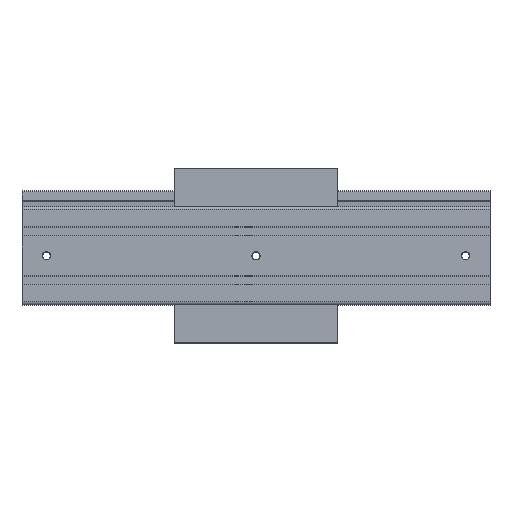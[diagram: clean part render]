
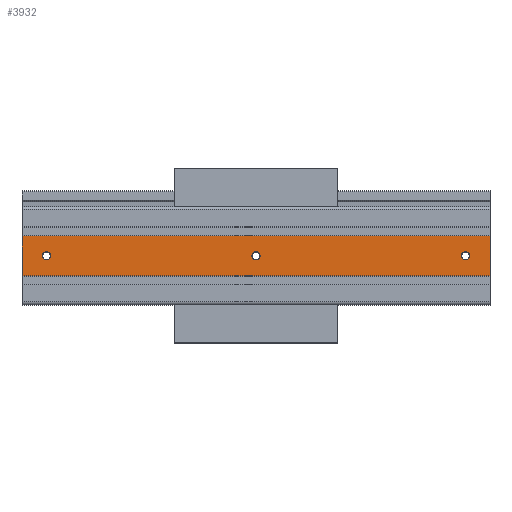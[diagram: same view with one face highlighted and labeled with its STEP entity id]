
A CAD part, top view. The second image highlights one B-rep face of the part: STEP entity #3932.
In plain terms, the highlighted planar face has unit normal (0, 0, 1).
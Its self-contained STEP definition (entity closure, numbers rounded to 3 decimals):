
#1403 = VECTOR ( 'NONE', #24248, 1000. ) ;
#2094 = CIRCLE ( 'NONE', #2454, 3.75 ) ;
#2207 = EDGE_CURVE ( 'NONE', #25421, #3337, #20485, .T. ) ;
#2454 = AXIS2_PLACEMENT_3D ( 'NONE', #5698, #20197, #7775 ) ;
#2581 = ORIENTED_EDGE ( 'NONE', *, *, #3801, .F. ) ;
#3258 = VECTOR ( 'NONE', #22984, 1000. ) ;
#3337 = VERTEX_POINT ( 'NONE', #26014 ) ;
#3801 = EDGE_CURVE ( 'NONE', #7267, #10944, #5126, .T. ) ;
#3854 = CIRCLE ( 'NONE', #19816, 3.75 ) ;
#3932 = ADVANCED_FACE ( 'NONE', ( #7839, #23675, #12740, #7162 ), #12896, .F. ) ;
#4095 = VECTOR ( 'NONE', #12004, 1000. ) ;
#4426 = CARTESIAN_POINT ( 'NONE',  ( 0., -45., 142.5 ) ) ;
#4896 = EDGE_CURVE ( 'NONE', #25263, #26521, #19122, .T. ) ;
#5126 = CIRCLE ( 'NONE', #5936, 3.75 ) ;
#5313 = CARTESIAN_POINT ( 'NONE',  ( -215., -63.35, 142.5 ) ) ;
#5457 = EDGE_LOOP ( 'NONE', ( #18954, #23550, #7469, #15591 ) ) ;
#5569 = LINE ( 'NONE', #17535, #26285 ) ;
#5698 = CARTESIAN_POINT ( 'NONE',  ( -192.5, -45., 142.5 ) ) ;
#5936 = AXIS2_PLACEMENT_3D ( 'NONE', #6346, #20850, #8421 ) ;
#6186 = CIRCLE ( 'NONE', #15103, 3.75 ) ;
#6346 = CARTESIAN_POINT ( 'NONE',  ( 0., -45., 142.5 ) ) ;
#6504 = DIRECTION ( 'NONE',  ( 1., 0., 0. ) ) ;
#6565 = EDGE_LOOP ( 'NONE', ( #23425, #15056 ) ) ;
#6570 = CARTESIAN_POINT ( 'NONE',  ( 192.5, -45., 142.5 ) ) ;
#7161 = EDGE_CURVE ( 'NONE', #17495, #15285, #19672, .T. ) ;
#7162 = FACE_OUTER_BOUND ( 'NONE', #5457, .T. ) ;
#7267 = VERTEX_POINT ( 'NONE', #13124 ) ;
#7276 = EDGE_LOOP ( 'NONE', ( #12515, #26737 ) ) ;
#7469 = ORIENTED_EDGE ( 'NONE', *, *, #15215, .F. ) ;
#7775 = DIRECTION ( 'NONE',  ( 1., 0., 0. ) ) ;
#7839 = FACE_BOUND ( 'NONE', #7276, .T. ) ;
#7863 = CARTESIAN_POINT ( 'NONE',  ( -192.5, -45., 142.5 ) ) ;
#7872 = CARTESIAN_POINT ( 'NONE',  ( 3.75, -45., 142.5 ) ) ;
#8174 = CARTESIAN_POINT ( 'NONE',  ( 215., -26.65, 142.5 ) ) ;
#8421 = DIRECTION ( 'NONE',  ( 1., 0., 0. ) ) ;
#8502 = CARTESIAN_POINT ( 'NONE',  ( 215., -26.65, 142.5 ) ) ;
#8660 = DIRECTION ( 'NONE',  ( 1., 0., 0. ) ) ;
#8774 = DIRECTION ( 'NONE',  ( 0., 1., 0. ) ) ;
#9604 = LINE ( 'NONE', #11917, #4095 ) ;
#9962 = DIRECTION ( 'NONE',  ( 1., 0., 0. ) ) ;
#9975 = DIRECTION ( 'NONE',  ( 0., 0., 1. ) ) ;
#10145 = EDGE_CURVE ( 'NONE', #10944, #7267, #6186, .T. ) ;
#10252 = VERTEX_POINT ( 'NONE', #21281 ) ;
#10944 = VERTEX_POINT ( 'NONE', #7872 ) ;
#11917 = CARTESIAN_POINT ( 'NONE',  ( -215., -26.65, 142.5 ) ) ;
#12004 = DIRECTION ( 'NONE',  ( 0., -1., 0. ) ) ;
#12021 = EDGE_CURVE ( 'NONE', #15285, #17495, #3854, .T. ) ;
#12515 = ORIENTED_EDGE ( 'NONE', *, *, #4896, .F. ) ;
#12740 = FACE_BOUND ( 'NONE', #6565, .T. ) ;
#12896 = PLANE ( 'NONE',  #19813 ) ;
#13124 = CARTESIAN_POINT ( 'NONE',  ( -3.75, -45., 142.5 ) ) ;
#13433 = EDGE_CURVE ( 'NONE', #3337, #14441, #9604, .T. ) ;
#13497 = DIRECTION ( 'NONE',  ( -1., 0., 0. ) ) ;
#14441 = VERTEX_POINT ( 'NONE', #5313 ) ;
#15056 = ORIENTED_EDGE ( 'NONE', *, *, #7161, .F. ) ;
#15103 = AXIS2_PLACEMENT_3D ( 'NONE', #4426, #18917, #6504 ) ;
#15215 = EDGE_CURVE ( 'NONE', #25421, #10252, #17903, .T. ) ;
#15285 = VERTEX_POINT ( 'NONE', #26517 ) ;
#15591 = ORIENTED_EDGE ( 'NONE', *, *, #2207, .T. ) ;
#16385 = AXIS2_PLACEMENT_3D ( 'NONE', #7863, #22358, #9962 ) ;
#17495 = VERTEX_POINT ( 'NONE', #20559 ) ;
#17535 = CARTESIAN_POINT ( 'NONE',  ( 215., -63.35, 142.5 ) ) ;
#17903 = LINE ( 'NONE', #26237, #1403 ) ;
#17957 = CARTESIAN_POINT ( 'NONE',  ( -188.75, -45., 142.5 ) ) ;
#18917 = DIRECTION ( 'NONE',  ( 0., 0., 1. ) ) ;
#18954 = ORIENTED_EDGE ( 'NONE', *, *, #13433, .T. ) ;
#19110 = CARTESIAN_POINT ( 'NONE',  ( 215., -26.65, 142.5 ) ) ;
#19122 = CIRCLE ( 'NONE', #16385, 3.75 ) ;
#19376 = ORIENTED_EDGE ( 'NONE', *, *, #10145, .F. ) ;
#19672 = CIRCLE ( 'NONE', #21950, 3.75 ) ;
#19813 = AXIS2_PLACEMENT_3D ( 'NONE', #19110, #21202, #8774 ) ;
#19816 = AXIS2_PLACEMENT_3D ( 'NONE', #22372, #9975, #24443 ) ;
#20197 = DIRECTION ( 'NONE',  ( 0., 0., 1. ) ) ;
#20485 = LINE ( 'NONE', #8502, #3258 ) ;
#20559 = CARTESIAN_POINT ( 'NONE',  ( 188.75, -45., 142.5 ) ) ;
#20647 = CARTESIAN_POINT ( 'NONE',  ( -196.25, -45., 142.5 ) ) ;
#20850 = DIRECTION ( 'NONE',  ( 0., 0., 1. ) ) ;
#21091 = DIRECTION ( 'NONE',  ( 0., 0., 1. ) ) ;
#21202 = DIRECTION ( 'NONE',  ( 0., 0., -1. ) ) ;
#21281 = CARTESIAN_POINT ( 'NONE',  ( 215., -63.35, 142.5 ) ) ;
#21435 = EDGE_CURVE ( 'NONE', #10252, #14441, #5569, .T. ) ;
#21950 = AXIS2_PLACEMENT_3D ( 'NONE', #6570, #21091, #8660 ) ;
#22228 = EDGE_LOOP ( 'NONE', ( #19376, #2581 ) ) ;
#22358 = DIRECTION ( 'NONE',  ( 0., 0., 1. ) ) ;
#22372 = CARTESIAN_POINT ( 'NONE',  ( 192.5, -45., 142.5 ) ) ;
#22984 = DIRECTION ( 'NONE',  ( -1., 0., 0. ) ) ;
#23296 = EDGE_CURVE ( 'NONE', #26521, #25263, #2094, .T. ) ;
#23425 = ORIENTED_EDGE ( 'NONE', *, *, #12021, .F. ) ;
#23550 = ORIENTED_EDGE ( 'NONE', *, *, #21435, .F. ) ;
#23675 = FACE_BOUND ( 'NONE', #22228, .T. ) ;
#24248 = DIRECTION ( 'NONE',  ( 0., -1., 0. ) ) ;
#24443 = DIRECTION ( 'NONE',  ( 1., 0., 0. ) ) ;
#25263 = VERTEX_POINT ( 'NONE', #17957 ) ;
#25421 = VERTEX_POINT ( 'NONE', #8174 ) ;
#26014 = CARTESIAN_POINT ( 'NONE',  ( -215., -26.65, 142.5 ) ) ;
#26237 = CARTESIAN_POINT ( 'NONE',  ( 215., -26.65, 142.5 ) ) ;
#26285 = VECTOR ( 'NONE', #13497, 1000. ) ;
#26517 = CARTESIAN_POINT ( 'NONE',  ( 196.25, -45., 142.5 ) ) ;
#26521 = VERTEX_POINT ( 'NONE', #20647 ) ;
#26737 = ORIENTED_EDGE ( 'NONE', *, *, #23296, .F. ) ;
